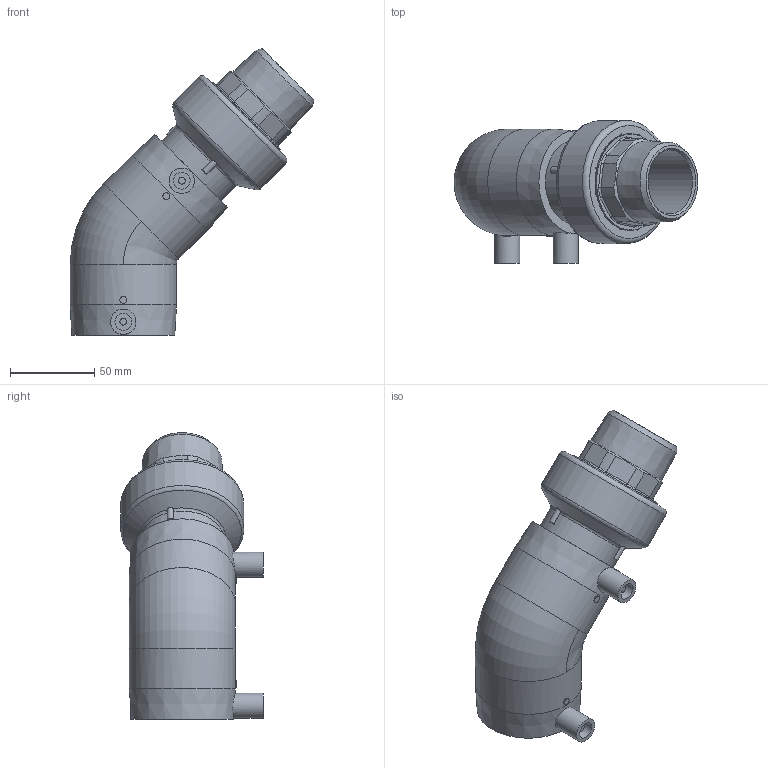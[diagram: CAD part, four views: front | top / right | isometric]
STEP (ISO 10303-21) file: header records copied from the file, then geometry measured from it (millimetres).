
FILE_DESCRIPTION(/* description */ ('Unknown'),/* implementation_level */ '2;1');
FILE_NAME(/* name */ 'GE4TMP050C',/* time_stamp */ '2021-03-02T16:03:50+01:00',/* author */ ('Unknown'),/* organization */ ('Unknown'),/* preprocessor_version */ 'ST-DEVELOPER v16.7',/* originating_system */ 'Solid Edge',/* authorisation */ 'Unknown');
FILE_SCHEMA (('AUTOMOTIVE_DESIGN {1 0 10303 214 3 1 1}'));
Length unit declared in the file: millimetre
Products named in the file (5): GE4TMP050C; GE4P050C; RTOMP050C; Parte PE 050; IOM050C
Assembly tree (4 placements, depth 3):
  GE4TMP050C
    GE4P050C
    RTOMP050C
      Parte PE 050
      IOM050C
Bounding box: 144.43 x 84.42 x 169.93 mm (x, y, z)
Volume: 286634.9 mm3; surface area: 105164.3 mm2
Topology: 3 solids, 3 shells, 537 faces, 1447 edges, 936 vertices
Faces by surface type: cylinder 216, plane 134, bspline 76, cone 70, torus 29, sphere 12
Full cylindrical faces by diameter (mm): 4 x4, 10 x2, 15 x2, 38 x1, 40.8 x1, 44 x2, 48.3 x2, 48.5 x2, 50 x3, 56.5 x2, 57 x1, 61.5 x2, 61.587 x2, 63 x2, 73 x1
Entity records: 21899 total; most frequent: CARTESIAN_POINT 7908, ORIENTED_EDGE 2742, DIRECTION 2226, EDGE_CURVE 1371, AXIS2_PLACEMENT_3D 995, VERTEX_POINT 914, EDGE_LOOP 617, FACE_BOUND 617
